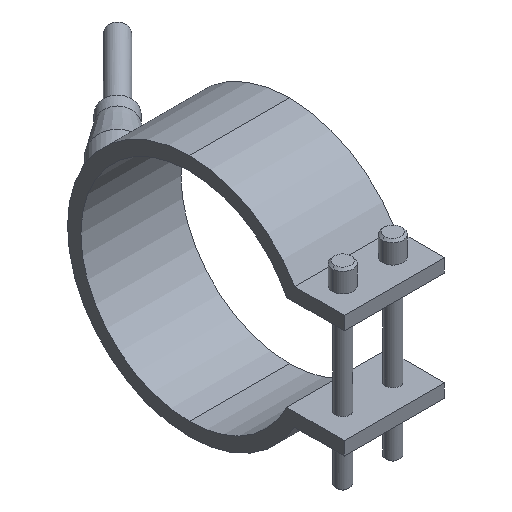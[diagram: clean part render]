
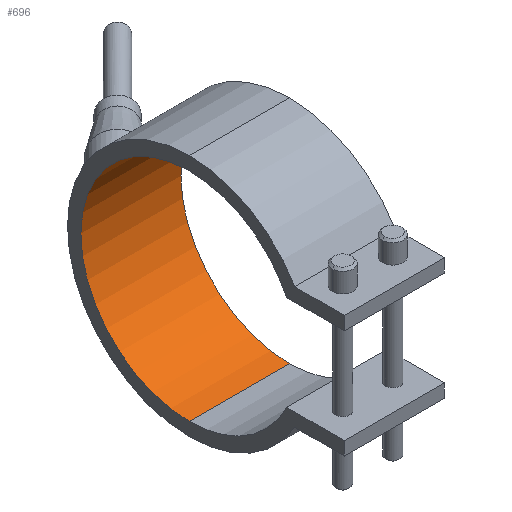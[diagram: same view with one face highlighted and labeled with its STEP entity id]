
A CAD part, isometric view. The second image highlights one B-rep face of the part: STEP entity #696.
In plain terms, the highlighted cylindrical face has radius 32.5 mm (diameter 65 mm), a partial arc.
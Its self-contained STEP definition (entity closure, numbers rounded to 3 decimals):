
#366=CARTESIAN_POINT('Vertex',(15.,0.,32.5)) ;
#371=CARTESIAN_POINT('Axis2P3D Location',(15.,0.,0.)) ;
#375=CARTESIAN_POINT('Vertex',(15.,0.,-32.5)) ;
#482=CARTESIAN_POINT('Vertex',(-15.,0.,-32.5)) ;
#485=CARTESIAN_POINT('Axis2P3D Location',(-15.,0.,0.)) ;
#489=CARTESIAN_POINT('Vertex',(-15.,0.,32.5)) ;
#668=CARTESIAN_POINT('Line Origine',(15.,0.,32.5)) ;
#680=CARTESIAN_POINT('Axis2P3D Location',(15.,0.,0.)) ;
#685=CARTESIAN_POINT('Line Origine',(15.,0.,-32.5)) ;
#372=DIRECTION('Axis2P3D Direction',(1.,0.,0.)) ;
#486=DIRECTION('Axis2P3D Direction',(1.,0.,0.)) ;
#669=DIRECTION('Vector Direction',(1.,0.,0.)) ;
#681=DIRECTION('Axis2P3D Direction',(1.,0.,-0.)) ;
#682=DIRECTION('Axis2P3D XDirection',(0.,0.,-1.)) ;
#686=DIRECTION('Vector Direction',(1.,0.,0.)) ;
#373=AXIS2_PLACEMENT_3D('Circle Axis2P3D',#371,#372,$) ;
#487=AXIS2_PLACEMENT_3D('Circle Axis2P3D',#485,#486,$) ;
#683=AXIS2_PLACEMENT_3D('Cylinder Axis2P3D',#680,#681,#682) ;
#691=ORIENTED_EDGE('',*,*,#377,.T.) ;
#692=ORIENTED_EDGE('',*,*,#672,.T.) ;
#693=ORIENTED_EDGE('',*,*,#491,.F.) ;
#694=ORIENTED_EDGE('',*,*,#689,.T.) ;
#670=VECTOR('Line Direction',#669,1.) ;
#687=VECTOR('Line Direction',#686,1.) ;
#696=ADVANCED_FACE('29065030',(#695),#684,.F.) ;
#374=CIRCLE('generated circle',#373,32.5) ;
#488=CIRCLE('generated circle',#487,32.5) ;
#684=CYLINDRICAL_SURFACE('generated cylinder',#683,32.5) ;
#377=EDGE_CURVE('',#376,#367,#374,.T.) ;
#491=EDGE_CURVE('',#483,#490,#488,.T.) ;
#672=EDGE_CURVE('',#367,#490,#671,.F.) ;
#689=EDGE_CURVE('',#483,#376,#688,.T.) ;
#690=EDGE_LOOP('',(#691,#692,#693,#694)) ;
#695=FACE_OUTER_BOUND('',#690,.T.) ;
#671=LINE('Line',#668,#670) ;
#688=LINE('Line',#685,#687) ;
#367=VERTEX_POINT('',#366) ;
#376=VERTEX_POINT('',#375) ;
#483=VERTEX_POINT('',#482) ;
#490=VERTEX_POINT('',#489) ;
